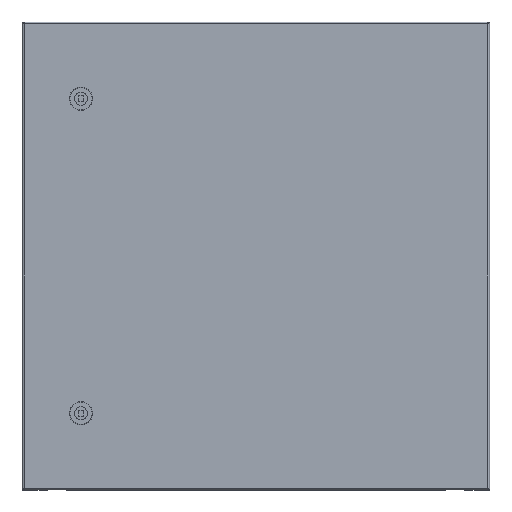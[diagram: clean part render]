
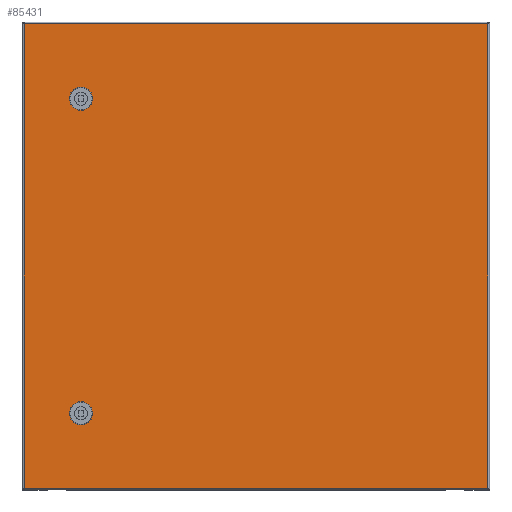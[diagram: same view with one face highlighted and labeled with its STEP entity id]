
A CAD part, top view. The second image highlights one B-rep face of the part: STEP entity #85431.
In plain terms, the highlighted planar face has unit normal (0, 0, 1).
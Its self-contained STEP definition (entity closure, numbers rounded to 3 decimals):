
#83206=CARTESIAN_POINT(' ',(591.7,295.2,0.));
#83211=DIRECTION(' ',(-1.,0.,0.));
#83216=VECTOR(' ',#83211,1.);
#83221=LINE('',#83206,#83216);
#83226=CARTESIAN_POINT(' ',(591.7,295.2,0.));
#83227=VERTEX_POINT(' ',#83226);
#83231=CARTESIAN_POINT(' ',(2.3,295.2,0.));
#83232=VERTEX_POINT(' ',#83231);
#83236=EDGE_CURVE(' ',#83227,#83232,#83221,.T.);
#85291=DIRECTION(' ',(-0.,-0.,1.));
#85296=CARTESIAN_POINT(' ',(591.7,-295.2,0.));
#85301=DIRECTION(' ',(0.,1.,0.));
#85306=AXIS2_PLACEMENT_3D(' ',#85296,#85291,#85301);
#85311=PLANE('NONE',#85306);
#85316=CARTESIAN_POINT(' ',(2.3,-295.2,0.));
#85321=DIRECTION(' ',(1.,0.,0.));
#85326=VECTOR(' ',#85321,1.);
#85331=LINE('',#85316,#85326);
#85336=CARTESIAN_POINT(' ',(2.3,-295.2,0.));
#85337=VERTEX_POINT(' ',#85336);
#85341=CARTESIAN_POINT(' ',(591.7,-295.2,0.));
#85342=VERTEX_POINT(' ',#85341);
#85346=EDGE_CURVE(' ',#85337,#85342,#85331,.T.);
#85351=ORIENTED_EDGE(' ',*,*,#85346,.T.);
#85356=CARTESIAN_POINT(' ',(591.7,295.2,0.));
#85361=DIRECTION(' ',(0.,-1.,0.));
#85366=VECTOR(' ',#85361,1.);
#85371=LINE('',#85356,#85366);
#85376=EDGE_CURVE(' ',#83227,#85342,#85371,.T.);
#85381=ORIENTED_EDGE(' ',*,*,#85376,.F.);
#85386=ORIENTED_EDGE(' ',*,*,#83236,.T.);
#85391=CARTESIAN_POINT(' ',(2.3,295.2,0.));
#85396=DIRECTION(' ',(0.,-1.,0.));
#85401=VECTOR(' ',#85396,1.);
#85406=LINE('',#85391,#85401);
#85411=EDGE_CURVE(' ',#83232,#85337,#85406,.T.);
#85416=ORIENTED_EDGE(' ',*,*,#85411,.T.);
#85421=EDGE_LOOP(' ',(#85351,#85381,#85386,#85416));
#85426=FACE_OUTER_BOUND(' ',#85421,.T.);
#85431=ADVANCED_FACE('NONE',(#85426),#85311,.T.);
